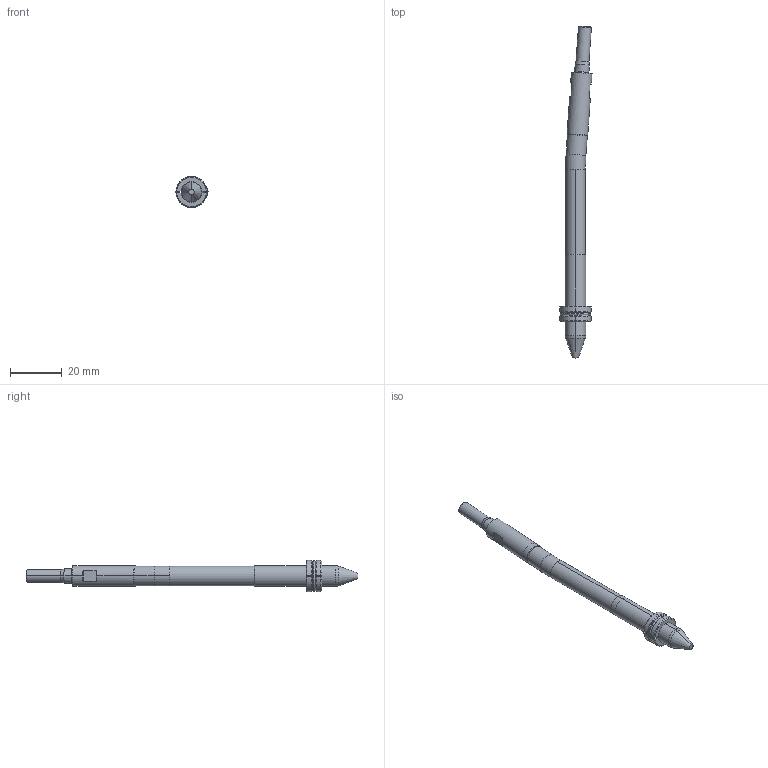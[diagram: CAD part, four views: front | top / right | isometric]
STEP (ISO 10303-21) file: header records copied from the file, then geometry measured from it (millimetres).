
FILE_DESCRIPTION (( 'STEP AP214' ), '1' );
FILE_NAME ('WP080030-INJ 4°.STEP', '2021-03-19T15:19:34', ( '' ), ( '' ), 'SwSTEP 2.0', 'SolidWorks 2019', '' );
FILE_SCHEMA (( 'AUTOMOTIVE_DESIGN' ));
Length unit declared in the file: millimetre
Products named in the file (6): Web-WP08-F_WP08-F-OFF 4ø; Web-WP08-1; Web-WP08-2; Web-WP08-7; WP080030-INJ 4°; Web-WP08-6
Assembly tree (5 placements, depth 2):
  WP080030-INJ 4°
    Web-WP08-1
    Web-WP08-F_WP08-F-OFF 4ø
    Web-WP08-2
    Web-WP08-6
    Web-WP08-7
Bounding box: 12.38 x 128.03 x 12 mm (x, y, z)
Volume: 5841.3 mm3; surface area: 4095.3 mm2
Topology: 6 solids, 6 shells, 121 faces, 280 edges, 174 vertices
Faces by surface type: cylinder 36, plane 29, cone 28, torus 28
Entity records: 3977 total; most frequent: CARTESIAN_POINT 767, DIRECTION 652, ORIENTED_EDGE 560, AXIS2_PLACEMENT_3D 283, EDGE_CURVE 280, VERTEX_POINT 174, CIRCLE 154, EDGE_LOOP 126
